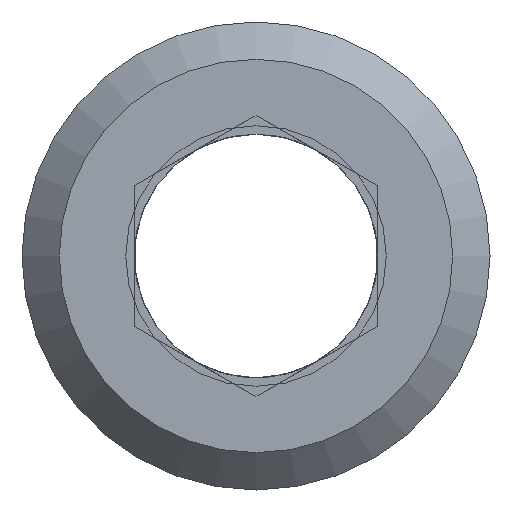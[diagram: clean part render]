
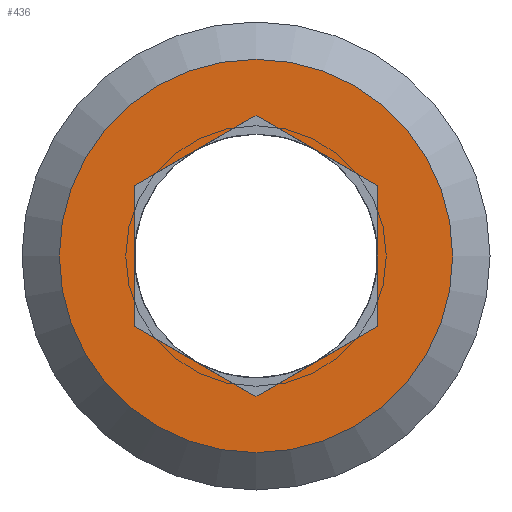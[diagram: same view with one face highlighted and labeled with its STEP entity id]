
A CAD part, front view. The second image highlights one B-rep face of the part: STEP entity #436.
In plain terms, the highlighted planar face has unit normal (0, -1, 0).
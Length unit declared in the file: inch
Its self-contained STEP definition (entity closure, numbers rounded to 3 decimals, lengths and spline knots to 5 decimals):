
#18=FACE_BOUND('',#73,.T.);
#46=FACE_OUTER_BOUND('',#72,.T.);
#72=EDGE_LOOP('',(#358));
#73=EDGE_LOOP('',(#359,#360,#361,#362,#363,#364));
#94=LINE('',#700,#125);
#97=LINE('',#705,#128);
#99=LINE('',#709,#130);
#101=LINE('',#713,#132);
#103=LINE('',#717,#134);
#105=LINE('',#720,#136);
#125=VECTOR('',#555,0.3937);
#128=VECTOR('',#560,0.3937);
#130=VECTOR('',#564,0.3937);
#132=VECTOR('',#568,0.3937);
#134=VECTOR('',#572,0.3937);
#136=VECTOR('',#576,0.3937);
#162=CIRCLE('',#492,0.126);
#188=VERTEX_POINT('',#698);
#189=VERTEX_POINT('',#699);
#190=VERTEX_POINT('',#704);
#191=VERTEX_POINT('',#708);
#192=VERTEX_POINT('',#712);
#193=VERTEX_POINT('',#716);
#203=VERTEX_POINT('',#747);
#235=EDGE_CURVE('',#188,#189,#94,.T.);
#238=EDGE_CURVE('',#190,#188,#97,.T.);
#240=EDGE_CURVE('',#191,#190,#99,.T.);
#242=EDGE_CURVE('',#192,#191,#101,.T.);
#244=EDGE_CURVE('',#193,#192,#103,.T.);
#246=EDGE_CURVE('',#189,#193,#105,.T.);
#259=EDGE_CURVE('',#203,#203,#162,.T.);
#358=ORIENTED_EDGE('',*,*,#259,.F.);
#359=ORIENTED_EDGE('',*,*,#244,.T.);
#360=ORIENTED_EDGE('',*,*,#242,.T.);
#361=ORIENTED_EDGE('',*,*,#240,.T.);
#362=ORIENTED_EDGE('',*,*,#238,.T.);
#363=ORIENTED_EDGE('',*,*,#235,.T.);
#364=ORIENTED_EDGE('',*,*,#246,.T.);
#415=PLANE('',#498);
#436=ADVANCED_FACE('',(#46,#18),#415,.T.);
#492=AXIS2_PLACEMENT_3D('',#748,#610,#611);
#498=AXIS2_PLACEMENT_3D('',#760,#624,#625);
#555=DIRECTION('',(0.866,0.,-0.5));
#560=DIRECTION('',(0.866,0.,0.5));
#564=DIRECTION('',(0.,0.,1.));
#568=DIRECTION('',(-0.866,0.,0.5));
#572=DIRECTION('',(-0.866,0.,-0.5));
#576=DIRECTION('',(0.,0.,-1.));
#610=DIRECTION('center_axis',(0.,1.,0.));
#611=DIRECTION('ref_axis',(0.,0.,1.));
#624=DIRECTION('center_axis',(0.,-1.,0.));
#625=DIRECTION('ref_axis',(0.,0.,-1.));
#698=CARTESIAN_POINT('',(0.,0.,0.09007));
#699=CARTESIAN_POINT('',(0.078,0.,0.04503));
#700=CARTESIAN_POINT('',(0.03639,0.,0.06906));
#704=CARTESIAN_POINT('',(-0.078,0.,0.04503));
#705=CARTESIAN_POINT('',(-0.07539,0.,0.04654));
#708=CARTESIAN_POINT('',(-0.078,0.,-0.04503));
#709=CARTESIAN_POINT('',(-0.078,0.,-0.06152));
#712=CARTESIAN_POINT('',(0.,0.,-0.09007));
#713=CARTESIAN_POINT('',(-0.00261,0.,-0.08856));
#716=CARTESIAN_POINT('',(0.078,0.,-0.04503));
#717=CARTESIAN_POINT('',(0.04161,0.,-0.06604));
#720=CARTESIAN_POINT('',(0.078,0.,-0.01648));
#747=CARTESIAN_POINT('',(0.,0.,-0.126));
#748=CARTESIAN_POINT('Origin',(0.,0.,0.));
#760=CARTESIAN_POINT('Origin',(0.,0.,-0.078));
